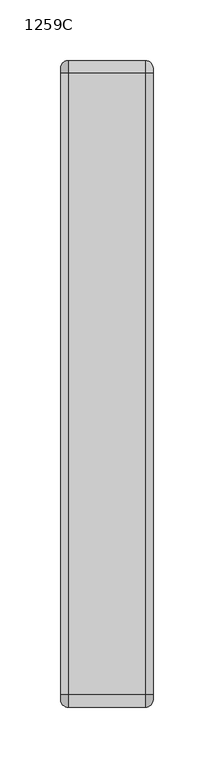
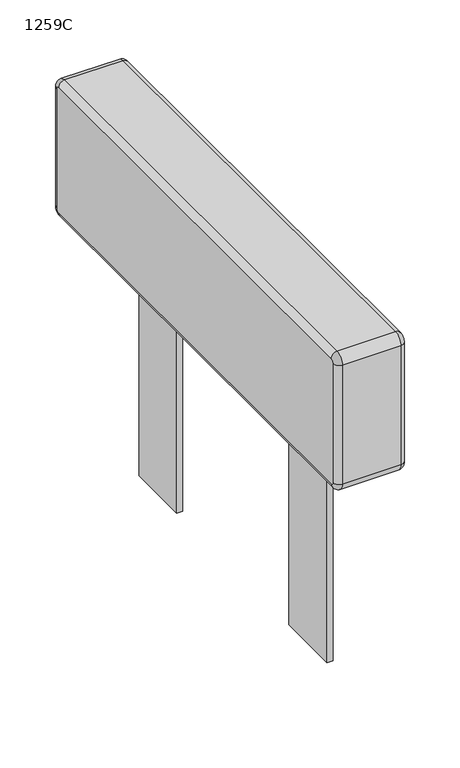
"""IFC4 building model written with IfcOpenShell, lengths in millimetres: furniture geometry, Laguna-Arm-Slim-ERG : 1259C."""

from ifc_helpers import new_model, si_unit, point, frame, origin, place, context, project, spatial, polyline, circle_curve, ellipse_curve, trimmed, outline, extrude, source, transform, mapped, element, save
from ifc_brep_helpers import plane_surface, cylinder_surface, revolved_surface, advanced_brep


def furniture_1259c_09073cc4(model_context):
    return source(origin(), model_context, "Body", "SolidModel", [
        extrude(outline(polyline([(-4659.5671763, -720.4408502), (-4665.9171763, -720.4408502), (-4665.9171763, -649.3208502), (-4659.5671763, -649.3208502), (-4659.5671763, -720.4408502)])), frame((0.0, 0.0, 200.66), z_axis=(0.0, 0.0, 1.0), x_axis=(1.0, 0.0, 0.0)), (0.0, 0.0, 1.0), 253.6407365),
        extrude(outline(polyline([(-4659.5671763, -931.8958502), (-4659.5671763, -1003.0158502), (-4665.9171763, -1003.0158502), (-4665.9171763, -931.8958502), (-4659.5671763, -931.8958502)])), frame((0.0, 0.0, 200.66), z_axis=(0.0, 0.0, 1.0), x_axis=(1.0, 0.0, 0.0)), (0.0, 0.0, 1.0), 253.6407365),
        advanced_brep(
        [(-4624.6421763, -558.5158502, 603.25), (-4624.6421763, -1071.5958502, 603.25), (-4624.6421763, -1075.4058502, 599.44), (-4624.6421763, -1075.4058502, 462.8394065), (-4624.6421763, -1071.5958502, 459.0294065), (-4624.6421763, -558.5158502, 459.0294065), (-4624.6421763, -554.7058502, 462.8394065), (-4624.6421763, -554.7058502, 599.44), (-4694.4921763, -548.3558502, 599.44), (-4700.8421763, -554.7058502, 599.44), (-4700.8421763, -558.5158502, 603.25), (-4694.4921763, -558.5158502, 609.6), (-4694.4921763, -548.3558502, 462.8394065), (-4700.8421763, -554.7058502, 462.8394065), (-4694.4921763, -558.5158502, 452.6794065), (-4700.8421763, -558.5158502, 459.0294065), (-4694.4921763, -1071.5958502, 452.6794065), (-4700.8421763, -1071.5958502, 459.0294065), (-4694.4921763, -1081.7558502, 462.8394065), (-4700.8421763, -1075.4058502, 462.8394065), (-4694.4921763, -1081.7558502, 599.44), (-4700.8421763, -1075.4058502, 599.44), (-4694.4921763, -1071.5958502, 609.6), (-4700.8421763, -1071.5958502, 603.25), (-4630.9921763, -558.5158502, 609.6), (-4630.9921763, -548.3558502, 599.44), (-4630.9921763, -548.3558502, 462.8394065), (-4630.9921763, -558.5158502, 452.6794065), (-4630.9921763, -1071.5958502, 452.6794065), (-4630.9921763, -1081.7558502, 462.8394065), (-4630.9921763, -1081.7558502, 599.44), (-4630.9921763, -1071.5958502, 609.6)],
        [
            (0, 1),
            (1, 2, circle_curve(frame((-4624.6421763, -1071.5958502, 599.44), z_axis=(1.0, 0.0, 0.0), x_axis=(0.0, -1.0, 0.0)), 3.81)),
            (2, 3),
            (3, 4, circle_curve(frame((-4624.6421763, -1071.5958502, 462.8394065), z_axis=(1.0, 0.0, 0.0), x_axis=(0.0, 0.0, -1.0)), 3.81)),
            (4, 5),
            (5, 6, circle_curve(frame((-4624.6421763, -558.5158502, 462.8394065), z_axis=(1.0, 0.0, 0.0), x_axis=(0.0, 1.0, 0.0)), 3.81)),
            (6, 7),
            (7, 0, circle_curve(frame((-4624.6421763, -558.5158502, 599.44), z_axis=(1.0, 0.0, 0.0), x_axis=(0.0, 0.0, 1.0)), 3.81)),
            (8, 9, circle_curve(frame((-4694.4921763, -554.7058502, 599.44), z_axis=(0.0, 0.0, 1.0), x_axis=(0.0, 1.0, 0.0)), 6.35)),
            (9, 10, circle_curve(frame((-4700.8421763, -558.5158502, 599.44), z_axis=(1.0, 0.0, 0.0), x_axis=(0.0, 0.0, 1.0)), 3.81)),
            (10, 11, circle_curve(frame((-4694.4921763, -558.5158502, 603.25), z_axis=(0.0, 1.0, 0.0), x_axis=(0.0, 0.0, 1.0)), 6.35)),
            (11, 8, circle_curve(frame((-4694.4921763, -558.5158502, 599.44), z_axis=(-1.0, 0.0, 0.0), x_axis=(0.0, 0.0, 1.0)), 10.16)),
            (8, 12),
            (12, 13, circle_curve(frame((-4694.4921763, -554.7058502, 462.8394065), z_axis=(0.0, 0.0, 1.0), x_axis=(0.0, 1.0, 0.0)), 6.35)),
            (13, 9),
            (12, 14, circle_curve(frame((-4694.4921763, -558.5158502, 462.8394065), z_axis=(-1.0, 0.0, 0.0), x_axis=(0.0, 1.0, 0.0)), 10.16)),
            (14, 15, circle_curve(frame((-4694.4921763, -558.5158502, 459.0294065), z_axis=(0.0, 1.0, 0.0), x_axis=(0.0, 0.0, -1.0)), 6.35)),
            (15, 13, circle_curve(frame((-4700.8421763, -558.5158502, 462.8394065), z_axis=(1.0, 0.0, 0.0), x_axis=(0.0, 1.0, 0.0)), 3.81)),
            (14, 16),
            (16, 17, circle_curve(frame((-4694.4921763, -1071.5958502, 459.0294065), z_axis=(0.0, 1.0, 0.0), x_axis=(0.0, 0.0, -1.0)), 6.35)),
            (17, 15),
            (16, 18, circle_curve(frame((-4694.4921763, -1071.5958502, 462.8394065), z_axis=(-1.0, 0.0, 0.0), x_axis=(0.0, 0.0, -1.0)), 10.16)),
            (18, 19, circle_curve(frame((-4694.4921763, -1075.4058502, 462.8394065), z_axis=(0.0, 0.0, -1.0), x_axis=(0.0, -1.0, 0.0)), 6.35)),
            (19, 17, circle_curve(frame((-4700.8421763, -1071.5958502, 462.8394065), z_axis=(1.0, 0.0, 0.0), x_axis=(0.0, 0.0, -1.0)), 3.81)),
            (18, 20),
            (20, 21, circle_curve(frame((-4694.4921763, -1075.4058502, 599.44), z_axis=(0.0, 0.0, -1.0), x_axis=(0.0, -1.0, 0.0)), 6.35)),
            (21, 19),
            (20, 22, circle_curve(frame((-4694.4921763, -1071.5958502, 599.44), z_axis=(-1.0, 0.0, 0.0), x_axis=(0.0, -1.0, 0.0)), 10.16)),
            (22, 23, circle_curve(frame((-4694.4921763, -1071.5958502, 603.25), z_axis=(0.0, -1.0, 0.0), x_axis=(0.0, 0.0, 1.0)), 6.35)),
            (23, 21, circle_curve(frame((-4700.8421763, -1071.5958502, 599.44), z_axis=(1.0, 0.0, 0.0), x_axis=(0.0, -1.0, 0.0)), 3.81)),
            (10, 23),
            (22, 11),
            (11, 24),
            (24, 25, circle_curve(frame((-4630.9921763, -558.5158502, 599.44), z_axis=(-1.0, 0.0, 0.0), x_axis=(0.0, 0.0, 1.0)), 10.16)),
            (25, 8),
            (24, 0, circle_curve(frame((-4630.9921763, -558.5158502, 603.25), z_axis=(0.0, 1.0, 0.0), x_axis=(0.0, 0.0, 1.0)), 6.35)),
            (7, 25, circle_curve(frame((-4630.9921763, -554.7058502, 599.44), z_axis=(0.0, 0.0, 1.0), x_axis=(0.0, 1.0, 0.0)), 6.35)),
            (25, 26),
            (26, 12),
            (6, 26, circle_curve(frame((-4630.9921763, -554.7058502, 462.8394065), z_axis=(0.0, 0.0, 1.0), x_axis=(0.0, 1.0, 0.0)), 6.35)),
            (26, 27, circle_curve(frame((-4630.9921763, -558.5158502, 462.8394065), z_axis=(-1.0, 0.0, 0.0), x_axis=(0.0, 1.0, 0.0)), 10.16)),
            (27, 14),
            (5, 27, circle_curve(frame((-4630.9921763, -558.5158502, 459.0294065), z_axis=(0.0, 1.0, 0.0), x_axis=(0.0, 0.0, -1.0)), 6.35)),
            (27, 28),
            (28, 16),
            (4, 28, circle_curve(frame((-4630.9921763, -1071.5958502, 459.0294065), z_axis=(0.0, 1.0, 0.0), x_axis=(0.0, 0.0, -1.0)), 6.35)),
            (28, 29, circle_curve(frame((-4630.9921763, -1071.5958502, 462.8394065), z_axis=(-1.0, 0.0, 0.0), x_axis=(0.0, 0.0, -1.0)), 10.16)),
            (29, 18),
            (3, 29, circle_curve(frame((-4630.9921763, -1075.4058502, 462.8394065), z_axis=(0.0, 0.0, -1.0), x_axis=(0.0, -1.0, 0.0)), 6.35)),
            (29, 30),
            (30, 20),
            (2, 30, circle_curve(frame((-4630.9921763, -1075.4058502, 599.44), z_axis=(0.0, 0.0, -1.0), x_axis=(0.0, -1.0, 0.0)), 6.35)),
            (30, 31, circle_curve(frame((-4630.9921763, -1071.5958502, 599.44), z_axis=(-1.0, 0.0, 0.0), x_axis=(0.0, -1.0, 0.0)), 10.16)),
            (31, 22),
            (1, 31, circle_curve(frame((-4630.9921763, -1071.5958502, 603.25), z_axis=(0.0, -1.0, 0.0), x_axis=(0.0, 0.0, 1.0)), 6.35)),
            (31, 24),
        ],
        [
            plane_surface(frame((-4624.6421763, -558.5158502, 603.25), z_axis=(1.0, 0.0, 0.0), x_axis=(0.0, 1.0, 0.0))),
            revolved_surface(trimmed(ellipse_curve(frame((-4694.4921763, -558.5158502, 603.25), z_axis=(0.0, 1.0, 0.0), x_axis=(0.0, 0.0, 1.0)), 6.35, 6.35), [point((-4700.8421763, -558.5158502, 603.25))], [point((-4694.4921763, -558.5158502, 609.6))], True, "CARTESIAN"), (-4694.4921763, -558.5158502, 599.44), (1.0, 0.0, 0.0)),
            cylinder_surface(frame((-4694.4921763, -554.7058502, 599.44), z_axis=(0.0, 0.0, 1.0), x_axis=(0.0, 1.0, 0.0)), 6.35),
            revolved_surface(trimmed(ellipse_curve(frame((-4694.4921763, -554.7058502, 462.8394065), z_axis=(0.0, 0.0, -1.0), x_axis=(0.0, 1.0, 0.0)), 6.35, 6.35), [point((-4700.8421763, -554.7058502, 462.8394065))], [point((-4694.4921763, -548.3558502, 462.8394065))], True, "CARTESIAN"), (-4694.4921763, -558.5158502, 462.8394065), (1.0, 0.0, 0.0)),
            cylinder_surface(frame((-4694.4921763, -558.5158502, 459.0294065), z_axis=(0.0, 1.0, 0.0), x_axis=(0.0, 0.0, -1.0)), 6.35),
            revolved_surface(trimmed(ellipse_curve(frame((-4694.4921763, -1071.5958502, 459.0294065), z_axis=(0.0, -1.0, 0.0), x_axis=(0.0, 0.0, -1.0)), 6.35, 6.35), [point((-4700.8421763, -1071.5958502, 459.0294065))], [point((-4694.4921763, -1071.5958502, 452.6794065))], True, "CARTESIAN"), (-4694.4921763, -1071.5958502, 462.8394065), (1.0, 0.0, 0.0)),
            cylinder_surface(frame((-4694.4921763, -1075.4058502, 462.8394065), z_axis=(0.0, 0.0, -1.0), x_axis=(0.0, -1.0, 0.0)), 6.35),
            revolved_surface(trimmed(ellipse_curve(frame((-4694.4921763, -1075.4058502, 599.44), z_axis=(0.0, 0.0, 1.0), x_axis=(0.0, -1.0, 0.0)), 6.35, 6.35), [point((-4700.8421763, -1075.4058502, 599.44))], [point((-4694.4921763, -1081.7558502, 599.44))], True, "CARTESIAN"), (-4694.4921763, -1071.5958502, 599.44), (1.0, 0.0, 0.0)),
            cylinder_surface(frame((-4694.4921763, -1071.5958502, 603.25), z_axis=(0.0, -1.0, 0.0), x_axis=(0.0, 0.0, 1.0)), 6.35),
            plane_surface(frame((-4700.8421763, -558.5158502, 603.25), z_axis=(-1.0, 0.0, 0.0), x_axis=(0.0, -1.0, 0.0))),
            cylinder_surface(frame((-4694.4921763, -558.5158502, 599.44), z_axis=(1.0, 0.0, 0.0), x_axis=(0.0, 0.0, 1.0)), 10.16),
            revolved_surface(trimmed(ellipse_curve(frame((-4630.9921763, -558.5158502, 603.25), z_axis=(0.0, 1.0, 0.0), x_axis=(0.0, 0.0, 1.0)), 6.35, 6.35), [point((-4630.9921763, -558.5158502, 609.6))], [point((-4624.6421763, -558.5158502, 603.25))], True, "CARTESIAN"), (-4694.4921763, -558.5158502, 599.44), (1.0, 0.0, 0.0)),
            plane_surface(frame((-4694.4921763, -548.3558502, 599.44), z_axis=(0.0, 1.0, 0.0), x_axis=(0.0, 0.0, -1.0))),
            cylinder_surface(frame((-4630.9921763, -554.7058502, 599.44), z_axis=(0.0, 0.0, 1.0), x_axis=(0.0, 1.0, 0.0)), 6.35),
            cylinder_surface(frame((-4694.4921763, -558.5158502, 462.8394065), z_axis=(1.0, 0.0, 0.0), x_axis=(0.0, 1.0, 0.0)), 10.16),
            revolved_surface(trimmed(ellipse_curve(frame((-4630.9921763, -554.7058502, 462.8394065), z_axis=(0.0, 0.0, -1.0), x_axis=(0.0, 1.0, 0.0)), 6.35, 6.35), [point((-4630.9921763, -548.3558502, 462.8394065))], [point((-4624.6421763, -554.7058502, 462.8394065))], True, "CARTESIAN"), (-4694.4921763, -558.5158502, 462.8394065), (1.0, 0.0, 0.0)),
            plane_surface(frame((-4694.4921763, -558.5158502, 452.6794065), z_axis=(0.0, 0.0, -1.0), x_axis=(0.0, -1.0, 0.0))),
            cylinder_surface(frame((-4630.9921763, -558.5158502, 459.0294065), z_axis=(0.0, 1.0, 0.0), x_axis=(0.0, 0.0, -1.0)), 6.35),
            cylinder_surface(frame((-4694.4921763, -1071.5958502, 462.8394065), z_axis=(1.0, 0.0, 0.0), x_axis=(0.0, 0.0, -1.0)), 10.16),
            revolved_surface(trimmed(ellipse_curve(frame((-4630.9921763, -1071.5958502, 459.0294065), z_axis=(0.0, -1.0, 0.0), x_axis=(0.0, 0.0, -1.0)), 6.35, 6.35), [point((-4630.9921763, -1071.5958502, 452.6794065))], [point((-4624.6421763, -1071.5958502, 459.0294065))], True, "CARTESIAN"), (-4694.4921763, -1071.5958502, 462.8394065), (1.0, 0.0, 0.0)),
            plane_surface(frame((-4694.4921763, -1081.7558502, 462.8394065), z_axis=(0.0, -1.0, 0.0), x_axis=(0.0, 0.0, 1.0))),
            cylinder_surface(frame((-4630.9921763, -1075.4058502, 462.8394065), z_axis=(0.0, 0.0, -1.0), x_axis=(0.0, -1.0, 0.0)), 6.35),
            cylinder_surface(frame((-4694.4921763, -1071.5958502, 599.44), z_axis=(1.0, 0.0, 0.0), x_axis=(0.0, -1.0, 0.0)), 10.16),
            revolved_surface(trimmed(ellipse_curve(frame((-4630.9921763, -1075.4058502, 599.44), z_axis=(0.0, 0.0, 1.0), x_axis=(0.0, -1.0, 0.0)), 6.35, 6.35), [point((-4630.9921763, -1081.7558502, 599.44))], [point((-4624.6421763, -1075.4058502, 599.44))], True, "CARTESIAN"), (-4694.4921763, -1071.5958502, 599.44), (1.0, 0.0, 0.0)),
            plane_surface(frame((-4694.4921763, -1071.5958502, 609.6), z_axis=(0.0, 0.0, 1.0), x_axis=(0.0, 1.0, 0.0))),
            cylinder_surface(frame((-4630.9921763, -1071.5958502, 603.25), z_axis=(0.0, -1.0, 0.0), x_axis=(0.0, 0.0, 1.0)), 6.35),
        ],
        [
            (0, [[1, 2, 3, 4, 5, 6, 7, 8]]),
            (1, [[9, 10, 11, 12]]),
            (2, [[13, 14, 15, -9]]),
            (3, [[16, 17, 18, -14]]),
            (4, [[19, 20, 21, -17]]),
            (5, [[22, 23, 24, -20]]),
            (6, [[25, 26, 27, -23]]),
            (7, [[28, 29, 30, -26]]),
            (8, [[31, -29, 32, -11]]),
            (9, [[-15, -18, -21, -24, -27, -30, -31, -10]]),
            (10, [[33, 34, 35, -12]]),
            (11, [[36, -8, 37, -34]]),
            (12, [[-35, 38, 39, -13]]),
            (13, [[-7, 40, -38, -37]]),
            (14, [[-39, 41, 42, -16]]),
            (15, [[-6, 43, -41, -40]]),
            (16, [[-42, 44, 45, -19]]),
            (17, [[-5, 46, -44, -43]]),
            (18, [[-45, 47, 48, -22]]),
            (19, [[-4, 49, -47, -46]]),
            (20, [[-48, 50, 51, -25]]),
            (21, [[-3, 52, -50, -49]]),
            (22, [[-51, 53, 54, -28]]),
            (23, [[-2, 55, -53, -52]]),
            (24, [[-54, 56, -33, -32]]),
            (25, [[-56, -55, -1, -36]]),
        ],
    ),
    ])


if __name__ == "__main__":
    model = new_model("IFC4")
    model_context = context("Model", 3, world=origin())
    ifc_project = project(units=[si_unit("LENGTHUNIT", "METRE", prefix="MILLI")], contexts=[model_context])
    site = spatial("IfcSite", under=ifc_project)
    building = spatial("IfcBuilding", under=site)
    placement = place(None, origin())
    furniture_1259c_shape = furniture_1259c_09073cc4(model_context)
    element("IfcFurniture", 1, ObjectType="Laguna-Arm-Slim-ERG : 1259C", at=placement, inside=building, context=model_context, shape_type="MappedRepresentation", body=[
        mapped(furniture_1259c_shape, transform((0.0, 0.0, 0.0), x_axis=(1.0, 0.0, 0.0), y_axis=(0.0, 1.0, 0.0), z_axis=(0.0, 0.0, 1.0))),
    ])
    save(model, "model.ifc")
